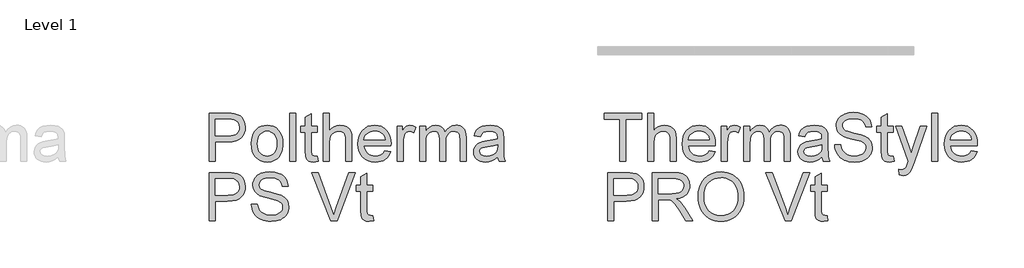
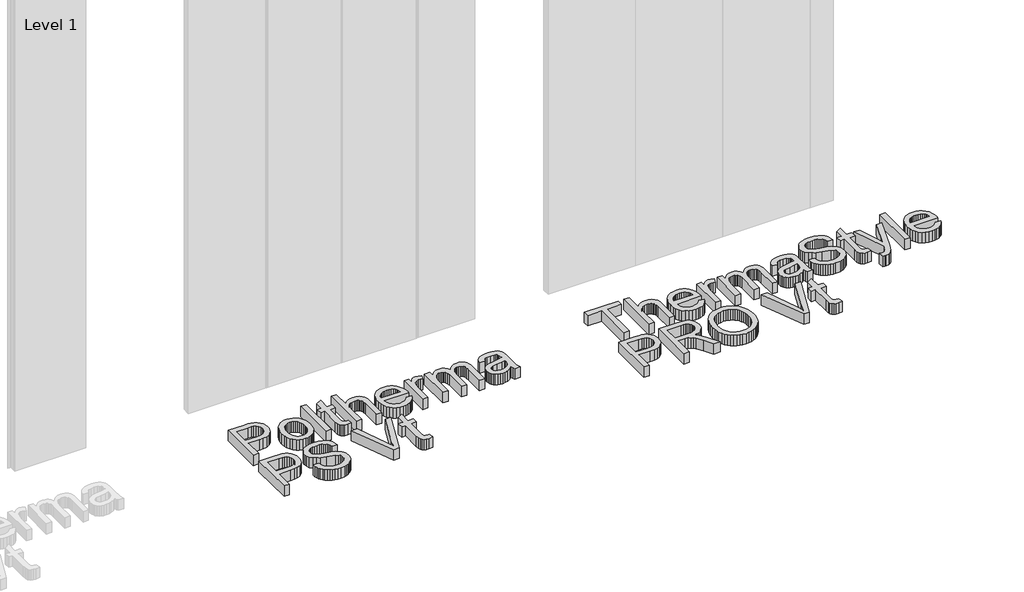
# One storey, part 20 of 27: 2 proxies.
"""IFC4 building model written with IfcOpenShell, lengths in millimetres."""

import ifcopenshell
import ifcopenshell.guid

model = None  # the IFC model being written
_history = None  # IfcOwnerHistory: only IFC2X3 demands one
_inside = {}  # id of a spatial element -> (the spatial element, [elements in it])
_under = {}  # id of a project, library or spatial element -> (it, [spatial elements below it])
_declared = {}  # id of a project -> (the project, [libraries it declares])
_typed = {}  # id of a type object -> (the type object, [elements of that type])
_made_of = {}  # id of a material, layer set ... -> (it, [elements and type objects made of it])


def new_model(schema):
    """Start an empty IFC model of exactly this schema.

    Asked for "IFC4X3", IfcOpenShell would pick the latest addendum, in which some entities
    have other attributes; the version numbers below select the first issue.
    IFC2X3 requires an IfcOwnerHistory on every rooted entity: one is made here for all.
    """
    global model, _history
    if schema == "IFC4X3":
        model = ifcopenshell.file(schema_version=(4, 3, 0, 0))
    else:
        model = ifcopenshell.file(schema=schema)
    _inside.clear()
    _under.clear()
    _declared.clear()
    _typed.clear()
    _made_of.clear()
    _history = None
    if model.schema == "IFC2X3":
        org = make("IfcOrganization", Name="unknown")
        user = make(
            "IfcPersonAndOrganization",
            ThePerson=make("IfcPerson", FamilyName="unknown"),
            TheOrganization=org,
        )
        app = make(
            "IfcApplication",
            ApplicationDeveloper=org,
            Version="unknown",
            ApplicationFullName="unknown",
            ApplicationIdentifier="unknown",
        )
        _history = make(
            "IfcOwnerHistory",
            OwningUser=user,
            OwningApplication=app,
            ChangeAction="ADDED",
            CreationDate=0,
        )
    return model


def make(cls, **values):
    """One entity of the class cls with the attributes given. An attribute that is None is left unset."""
    return model.create_entity(
        cls, **{name: value for name, value in values.items() if value is not None}
    )


def rooted(cls, **values):
    """An entity with a GlobalId (a new one), such as an element, a storey or a relation."""
    return make(cls, GlobalId=ifcopenshell.guid.new(), OwnerHistory=_history, **values)


def si_unit(unit_type, name, prefix=None):
    """IfcSIUnit, for example si_unit("LENGTHUNIT", "METRE", prefix="MILLI")."""
    return make("IfcSIUnit", UnitType=unit_type, Prefix=prefix, Name=name)


def assignment(units):
    """IfcUnitAssignment: the units of a project."""
    return None if units is None else make("IfcUnitAssignment", Units=units)


def point(xyz):
    """IfcCartesianPoint."""
    return None if xyz is None else make("IfcCartesianPoint", Coordinates=xyz)


def direction(xyz):
    """IfcDirection."""
    return None if xyz is None else make("IfcDirection", DirectionRatios=xyz)


def frame(location, z_axis=None, x_axis=None):
    """IfcAxis2Placement3D, a coordinate frame: its origin and axes. An axis left out is left unset."""
    return make(
        "IfcAxis2Placement3D",
        Location=point(location),
        Axis=direction(z_axis),
        RefDirection=direction(x_axis),
    )


def origin():
    """The frame at (0, 0, 0) with its axes left unset."""
    return frame((0.0, 0.0, 0.0))


def origin_with_axes():
    """The frame at (0, 0, 0) with the z axis (0, 0, 1) and the x axis (1, 0, 0) written out."""
    return frame((0.0, 0.0, 0.0), z_axis=(0.0, 0.0, 1.0), x_axis=(1.0, 0.0, 0.0))


def place(relative_to, where):
    """IfcLocalPlacement: puts the frame where relative to a parent placement (None: the world)."""
    return make(
        "IfcLocalPlacement", PlacementRelTo=relative_to, RelativePlacement=where
    )


def context(
    kind, dimensions, precision=None, world=None, true_north=None, identifier=None
):
    """IfcGeometricRepresentationContext, for example the 3D "Model" context."""
    return make(
        "IfcGeometricRepresentationContext",
        ContextIdentifier=identifier,
        ContextType=kind,
        CoordinateSpaceDimension=dimensions,
        Precision=precision,
        WorldCoordinateSystem=world,
        TrueNorth=true_north,
    )


def project(units=None, contexts=None):
    """IfcProject with its units and contexts."""
    return rooted(
        "IfcProject",
        Name="project",
        RepresentationContexts=contexts,
        UnitsInContext=assignment(units),
    )


def spatial(cls, under=None, at=None, **own):
    """A site, building, storey or space (cls), placed at a placement, below another one or the project."""
    s = rooted(cls, ObjectPlacement=at, **own)
    if under is not None:
        _under.setdefault(under.id(), (under, []))[1].append(s)
    return s


def polyline(points):
    """IfcPolyline through the points."""
    return make("IfcPolyline", Points=[point(p) for p in points])


def outline(outer, holes=None, kind="AREA"):
    """IfcArbitraryClosedProfileDef: a profile drawn as a closed curve; with holes, ...WithVoids."""
    if holes is None:
        return make("IfcArbitraryClosedProfileDef", ProfileType=kind, OuterCurve=outer)
    return make(
        "IfcArbitraryProfileDefWithVoids",
        ProfileType=kind,
        OuterCurve=outer,
        InnerCurves=holes,
    )


def extrude(swept, where, along, depth):
    """IfcExtrudedAreaSolid: the profile swept, set in the frame where, extruded along a direction by depth."""
    return make(
        "IfcExtrudedAreaSolid",
        SweptArea=swept,
        Position=where,
        ExtrudedDirection=direction(along),
        Depth=depth,
    )


def shape(context_of_items, identifier, shape_type, items):
    """IfcShapeRepresentation: the items that make up one representation, for example the "Body"."""
    return make(
        "IfcShapeRepresentation",
        ContextOfItems=context_of_items,
        RepresentationIdentifier=identifier,
        RepresentationType=shape_type,
        Items=items,
    )


def made_of(thing, what):
    """Note that an element or type object is made of a material, layer set ...; save() writes the relation."""
    if what is not None:
        _made_of.setdefault(what.id(), (what, []))[1].append(thing)
    return thing


def element(
    cls,
    number,
    at=None,
    inside=None,
    cuts=None,
    type_object=None,
    material=None,
    context=None,
    identifier="Body",
    shape_type=None,
    held_by="IfcProductDefinitionShape",
    body=None,
    shapes=None,
    **own,
):
    """One element of the class cls, such as IfcWall. Its Tag is "e" and its number.

    at: its placement. inside: the storey or other place that contains it. cuts: it is an
    opening in that element (IfcRelVoidsElement). A single representation is given by context,
    identifier, shape_type and body (its items); several are given by shapes. held_by: the class
    of the entity that holds the representations. save() writes the other relations.
    """
    e = rooted(cls, Tag="e%d" % number, ObjectPlacement=at, **own)
    if body is not None:
        shapes = [shape(context, identifier, shape_type, body)]
    if shapes is not None:
        e.Representation = make(held_by, Representations=shapes)
    if inside is not None:
        _inside.setdefault(inside.id(), (inside, []))[1].append(e)
    if cuts is not None:
        rooted(
            "IfcRelVoidsElement", RelatingBuildingElement=cuts, RelatedOpeningElement=e
        )
    if type_object is not None:
        _typed.setdefault(type_object.id(), (type_object, []))[1].append(e)
    return made_of(e, material)


def aggregate(whole, parts):
    """IfcRelAggregates: a whole, such as a stair, and the parts it consists of."""
    return rooted("IfcRelAggregates", RelatingObject=whole, RelatedObjects=parts)


def save(model, path):
    """Write the relations noted so far, then the file.

    IfcRelAggregates (storeys below a building ...), IfcRelContainedInSpatialStructure (elements
    in a storey), IfcRelDefinesByType, IfcRelAssociatesMaterial and IfcRelDeclares: one each for
    every whole, place, type object, material and project.
    """
    for whole, parts in _under.values():
        aggregate(whole, parts)
    for where, things in _inside.values():
        rooted(
            "IfcRelContainedInSpatialStructure",
            RelatedElements=things,
            RelatingStructure=where,
        )
    for kind, things in _typed.values():
        rooted("IfcRelDefinesByType", RelatedObjects=things, RelatingType=kind)
    for what, things in _made_of.values():
        rooted("IfcRelAssociatesMaterial", RelatedObjects=things, RelatingMaterial=what)
    for by, libraries in _declared.values():
        rooted("IfcRelDeclares", RelatingContext=by, RelatedDefinitions=libraries)
    model.write(path)


model = new_model("IFC4")

# Units and contexts
model_context = context("Model", 3, world=origin())
ifc_project = project(units=[si_unit("LENGTHUNIT", "METRE", prefix="MILLI")], contexts=[model_context])

# Site, building, storey
site = spatial("IfcSite", under=ifc_project)
building = spatial("IfcBuilding", under=site)
storey = spatial("IfcBuildingStorey", under=building, Name="Level 1", Elevation=0.0)

# Proxies
placement = place(None, origin())
element("IfcBuildingElementProxy", 1, Name="600mm Arial", ObjectType="600mm Arial", at=placement, inside=storey, context=model_context, shape_type="SweptSolid", body=[
    extrude(outline(polyline([(5651.3160797, -4357.7938606), (5651.3160797, -3767.0246299), (5870.2583874, -3767.0246299), (5921.2439643, -3768.4308799), (5958.5276182, -3772.6496299), (5997.8845893, -3783.1604472), (6030.2824259, -3800.2698222), (6056.3701663, -3824.7529953), (6076.7968489, -3857.3852068), (6089.9939643, -3895.8767933), (6094.3930028, -3937.9380914), (6091.4227504, -3974.2031154), (6082.5119932, -4007.5654953), (6067.6607312, -4038.0252308), (6046.8689643, -4065.5823222), (6018.3247937, -4088.4248703), (5980.2163201, -4104.740976), (5932.5435437, -4114.5306395), (5875.3064643, -4117.7938606), (5725.1622336, -4117.7938606), (5725.1622336, -4357.7938606), (5651.3160797, -4357.7938606)]), holes=[polyline([(5725.1622336, -4043.9477068), (5879.6333874, -4043.9477068), (5915.1502143, -4042.2529953), (5945.1141566, -4037.1688606), (5969.5252143, -4028.6953029), (5988.3833874, -4016.8323222), (6002.4549018, -4001.8954231), (6012.5059836, -3984.2001106), (6018.5366326, -3963.7463847), (6020.5468489, -3940.5342453), (6015.8052624, -3907.3611683), (6001.5805028, -3879.3803991), (5979.639397, -3858.3227068), (5951.748772, -3845.9188606), (5923.2631951, -3842.1328029), (5877.9026182, -3840.8707837), (5725.1622336, -3840.8707837), (5725.1622336, -4043.9477068)])]), origin_with_axes(), (0.0, 0.0, 1.0), 150.0),
    extrude(outline(polyline([(6168.2391566, -4140.8707837), (6172.2325461, -4084.6838847), (6184.2127143, -4036.2674183), (6204.1796614, -3995.6213847), (6232.1333874, -3962.7457837), (6260.2764163, -3941.7331635), (6291.3401182, -3926.7241491), (6325.3244932, -3917.7187404), (6362.2295413, -3914.7169376), (6402.9702263, -3918.3722861), (6439.8076663, -3929.3383318), (6472.741861, -3947.6150746), (6501.7728105, -3973.2025145), (6525.4672215, -4005.2352669), (6542.3918009, -4042.8479472), (6552.5465485, -4086.0405553), (6555.9314643, -4134.8130914), (6554.4350701, -4174.3413366), (6549.9458874, -4209.4164568), (6542.4639163, -4240.038452), (6531.9891566, -4266.2073222), (6518.6523177, -4288.810988), (6502.5841086, -4308.7373703), (6483.7845292, -4325.9864688), (6462.2535797, -4340.5582837), (6438.8296013, -4352.1373102), (6414.3509355, -4360.4080433), (6388.8175821, -4365.3704832), (6362.2295413, -4367.0246299), (6320.8939042, -4363.3828029), (6283.7139163, -4352.4573222), (6250.6895773, -4334.2481876), (6221.8208874, -4308.7553991), (6198.3788802, -4276.4116491), (6181.6345893, -4237.6496299), (6171.5880148, -4192.4693414), (6168.2391566, -4140.8707837)]), holes=[polyline([(6242.0853105, -4140.7265529), (6244.2217288, -4176.545363), (6250.6309836, -4207.5594856), (6261.3130749, -4233.7689207), (6276.2680028, -4255.1736683), (6294.4591086, -4271.8007717), (6314.8497336, -4283.6772741), (6337.4398778, -4290.8031755), (6362.2295413, -4293.178476), (6386.8930028, -4290.7896539), (6409.3930028, -4283.6231876), (6429.7295413, -4271.679077), (6447.9026182, -4254.9573222), (6462.8575461, -4233.3407356), (6473.5396374, -4206.7121299), (6479.9488922, -4175.0715049), (6482.0853105, -4138.4188606), (6479.9353706, -4103.7358678), (6473.4855509, -4073.5330433), (6462.7358513, -4047.8103871), (6447.686272, -4026.5678991), (6429.4455869, -4009.9407957), (6409.1225701, -3998.0642933), (6386.7172215, -3990.9383919), (6362.2295413, -3988.5630914), (6337.4398778, -3990.9293775), (6314.8497336, -3998.0282356), (6294.4591086, -4009.8596659), (6276.2680028, -4026.4236683), (6261.3130749, -4047.765315), (6250.6309836, -4073.9296779), (6244.2217288, -4104.9167573), (6242.0853105, -4140.7265529)])]), origin_with_axes(), (0.0, 0.0, 1.0), 150.0),
    extrude(outline(polyline([(6639.0083874, -4357.7938606), (6639.0083874, -3767.0246299), (6712.8545413, -3767.0246299), (6712.8545413, -4357.7938606), (6639.0083874, -4357.7938606)])), origin_with_axes(), (0.0, 0.0, 1.0), 150.0),
    extrude(outline(polyline([(6980.5468489, -4296.2073222), (6989.7776182, -4359.9573222), (6934.5372336, -4367.0246299), (6899.092522, -4363.959726), (6872.6622336, -4354.7650145), (6853.9843489, -4340.5943414), (6841.7968489, -4322.6015529), (6835.0901182, -4291.7001106), (6832.8545413, -4238.803476), (6832.8545413, -3997.7938606), (6777.4699259, -3997.7938606), (6777.4699259, -3923.9477068), (6832.8545413, -3923.9477068), (6832.8545413, -3818.5150145), (6906.7006951, -3775.1015529), (6906.7006951, -3923.9477068), (6980.5468489, -3923.9477068), (6980.5468489, -3997.7938606), (6906.7006951, -3997.7938606), (6906.7006951, -4236.6400145), (6910.5949259, -4274.7169376), (6923.2151182, -4288.2025145), (6933.8701663, -4291.9344856), (6948.3833874, -4293.178476), (6980.5468489, -4296.2073222)])), origin_with_axes(), (0.0, 0.0, 1.0), 150.0),
    extrude(outline(polyline([(7054.3930028, -4357.7938606), (7054.3930028, -3767.0246299), (7128.2391566, -3767.0246299), (7128.2391566, -3984.2361683), (7155.3635557, -3953.8215049), (7185.8232913, -3932.0967453), (7219.6183634, -3919.0618895), (7256.748772, -3914.7169376), (7301.3521374, -3919.4585241), (7339.6814643, -3933.6832837), (7369.8617528, -3956.2734279), (7390.0180028, -3986.1111683), (7401.3761759, -4027.1087645), (7405.1622336, -4083.178476), (7405.1622336, -4357.7938606), (7331.3160797, -4357.7938606), (7331.3160797, -4090.8227068), (7329.8467288, -4065.8888126), (7325.4386759, -4044.5967453), (7318.0919211, -4026.9465049), (7307.8064643, -4012.9380914), (7294.8256951, -4002.2740289), (7279.3930028, -3994.6568414), (7261.5083874, -3990.0865289), (7241.1718489, -3988.5630914), (7209.9639163, -3992.6736683), (7180.6670413, -4005.0053991), (7156.4002143, -4024.3683799), (7140.2824259, -4049.5727068), (7131.2499739, -4083.0703029), (7128.2391566, -4127.3130914), (7128.2391566, -4357.7938606), (7054.3930028, -4357.7938606)])), origin_with_axes(), (0.0, 0.0, 1.0), 150.0),
    extrude(outline(polyline([(7810.4506951, -4228.5630914), (7882.8545413, -4237.7938606), (7871.7532792, -4266.7932597), (7856.7668009, -4292.3491491), (7837.8951062, -4314.4615289), (7815.1381951, -4333.1303991), (7788.7304427, -4347.9591251), (7758.9062239, -4358.5510722), (7725.6655388, -4364.9062404), (7689.0083874, -4367.0246299), (7643.1880749, -4363.3692813), (7602.3617528, -4352.4032356), (7566.5294211, -4334.1264928), (7535.6910797, -4308.5390529), (7510.8924018, -4276.3530553), (7493.1790605, -4238.2806395), (7482.5510557, -4194.3218053), (7479.0083874, -4144.4765529), (7482.5871134, -4092.9410962), (7493.3232913, -4047.5174183), (7511.2169211, -4008.2055193), (7536.2680028, -3975.0053991), (7567.0252143, -3948.6291972), (7602.0372336, -3929.7890529), (7641.3040605, -3918.4849664), (7684.8256951, -3914.7169376), (7726.9455869, -3918.475952), (7765.0360316, -3929.7529953), (7799.0970292, -3948.5480674), (7829.1285797, -3974.8611683), (7853.6433033, -4007.9891731), (7871.1538201, -4047.2289568), (7881.6601302, -4092.5805193), (7885.1622336, -4144.0438606), (7884.7295413, -4163.9477068), (7552.8545413, -4163.9477068), (7557.131885, -4193.4158558), (7565.6369932, -4219.2241491), (7578.3698658, -4241.3725866), (7595.3305028, -4259.8611683), (7615.5814042, -4274.4374904), (7638.1850701, -4284.8491491), (7663.1415004, -4291.0961443), (7690.4506951, -4293.178476), (7729.7535797, -4289.3203029), (7762.8545413, -4277.7457837), (7789.7535797, -4257.7337645), (7810.4506951, -4228.5630914)]), holes=[polyline([(7552.8545413, -4090.1015529), (7811.3160797, -4090.1015529), (7801.3280989, -4051.0871299), (7792.7373538, -4035.7445818), (7781.748772, -4023.178476), (7761.6105509, -4008.0342453), (7738.6958874, -3997.2169376), (7713.0047816, -3990.7265529), (7684.5372336, -3988.5630914), (7658.5711879, -3990.2893534), (7634.7595893, -3995.4681395), (7613.1024379, -4004.0994496), (7593.5997336, -4016.1832837), (7577.2340485, -4031.1607477), (7564.9879547, -4048.4729472), (7556.8614523, -4068.1198823), (7552.8545413, -4090.1015529)])]), origin_with_axes(), (0.0, 0.0, 1.0), 150.0),
    extrude(outline(polyline([(7959.0083874, -4357.7938606), (7959.0083874, -3923.9477068), (8023.623772, -3923.9477068), (8023.623772, -3988.1303991), (8047.4939643, -3950.9188606), (8069.4891566, -3928.9957837), (8091.5564643, -3918.2866491), (8115.6430028, -3914.7169376), (8152.4218489, -3920.4140529), (8189.7776182, -3937.5053991), (8165.1141566, -4003.7073222), (8139.1526182, -3992.3491491), (8113.1910797, -3988.5630914), (8091.1418009, -3992.2049183), (8071.436272, -4003.1303991), (8055.5168009, -4020.5102068), (8044.8256951, -4043.5150145), (8035.8473297, -4084.7650145), (8032.8545413, -4129.7650145), (8032.8545413, -4357.7938606), (7959.0083874, -4357.7938606)])), origin_with_axes(), (0.0, 0.0, 1.0), 150.0),
    extrude(outline(polyline([(8235.9314643, -4357.7938606), (8235.9314643, -3923.9477068), (8309.7776182, -3923.9477068), (8309.7776182, -3995.3419376), (8331.9891566, -3962.5474664), (8360.5468489, -3936.8563606), (8394.4771374, -3920.2517933), (8432.8064643, -3914.7169376), (8473.8761759, -3920.3599664), (8491.3551422, -3927.4137525), (8506.7968489, -3937.2890529), (8531.3881951, -3964.3864087), (8547.4699259, -4000.5342453), (8574.3869932, -3962.9891731), (8605.0901182, -3936.1712645), (8639.5793009, -3920.0805193), (8677.8545413, -3914.7169376), (8707.4173417, -3916.9480073), (8733.3653586, -3923.6412164), (8755.6985917, -3934.796565), (8774.4170413, -3950.4140529), (8789.2142167, -3970.6739688), (8799.7836278, -3995.756601), (8806.1252744, -4025.6619496), (8808.2391566, -4060.3900145), (8808.2391566, -4357.7938606), (8734.3930028, -4357.7938606), (8734.3930028, -4092.1207837), (8732.6802624, -4055.287851), (8727.5420413, -4030.4621299), (8717.9146374, -4013.4609279), (8702.7343489, -4000.1015529), (8683.2091086, -3991.4477068), (8660.5468489, -3988.5630914), (8639.6198658, -3990.4110481), (8620.5408393, -3995.9549183), (8603.3097696, -4005.194702), (8587.9266566, -4018.1303991), (8575.2749138, -4035.1406154), (8566.2379547, -4056.6039568), (8560.8157792, -4082.5204231), (8559.0083874, -4112.8900145), (8559.0083874, -4357.7938606), (8485.1622336, -4357.7938606), (8485.1622336, -4083.8996299), (8480.889397, -4042.1448222), (8468.0708874, -4012.3611683), (8458.1595292, -4001.9495097), (8445.5168009, -3994.5126106), (8430.1427023, -3990.0504712), (8412.0372336, -3988.5630914), (8383.5877143, -3992.5294376), (8357.373772, -4004.428476), (8335.7391566, -4023.9717453), (8321.0276182, -4050.8707837), (8312.5901182, -4088.1904953), (8309.7776182, -4138.9957837), (8309.7776182, -4357.7938606), (8235.9314643, -4357.7938606)])), origin_with_axes(), (0.0, 0.0, 1.0), 150.0),
    extrude(outline(polyline([(9195.9314643, -4302.4092453), (9160.6490124, -4332.6616491), (9124.3208874, -4352.4573222), (9086.1177624, -4363.3828029), (9045.2103105, -4367.0246299), (9012.3302023, -4364.8341251), (8983.4975701, -4358.2626106), (8958.7124138, -4347.3100866), (8937.9747336, -4331.9765529), (8921.600034, -4313.2355674), (8909.9038201, -4292.0606876), (8902.8860917, -4268.4519135), (8900.5468489, -4242.4092453), (8904.0805028, -4211.7962645), (8914.6814643, -4183.9957837), (8931.0336278, -4160.1977068), (8951.8208874, -4141.5919376), (8976.2499739, -4127.5294376), (9003.5276182, -4117.3611683), (9067.4218489, -4106.2553991), (9142.9266566, -4094.5727068), (9195.498772, -4080.8707837), (9195.9314643, -4064.428476), (9190.8473297, -4031.4717453), (9184.4921614, -4019.2662164), (9175.5949259, -4009.9092453), (9160.2163201, -4000.5703029), (9141.4843489, -3993.8996299), (9093.9603105, -3988.5630914), (9049.9699259, -3992.1147741), (9019.248772, -4002.7698222), (8998.2992528, -4022.475351), (8983.623772, -4053.178476), (8909.7776182, -4043.9477068), (8922.5961278, -4003.5630914), (8941.7247336, -3971.8323222), (8968.9482913, -3947.5654953), (9006.0516566, -3929.5727068), (9051.4302624, -3918.4308799), (9103.4795413, -3914.7169376), (9153.4014163, -3917.9981876), (9192.9747336, -3927.8419376), (9222.8124739, -3942.6436203), (9243.5276182, -3960.7986683), (9257.2655989, -3983.2445818), (9266.1718489, -4010.9188606), (9269.7776182, -4075.5342453), (9269.7776182, -4167.4092453), (9273.5276182, -4295.7025145), (9279.0805028, -4327.4152549), (9288.2391566, -4357.7938606), (9214.3930028, -4357.7938606), (9202.5660797, -4332.1207837), (9195.9314643, -4302.4092453)]), holes=[polyline([(9195.9314643, -4154.7169376), (9146.3160797, -4167.0126106), (9076.7968489, -4177.3611683), (9013.2631951, -4189.3323222), (8996.7307432, -4197.5174183), (8984.4891566, -4208.803476), (8976.9170413, -4222.3251106), (8974.3930028, -4237.2169376), (8979.8918009, -4259.1760722), (8996.3881951, -4277.1688606), (9023.5216086, -4289.1760722), (9060.9314643, -4293.178476), (9100.5949259, -4288.7614087), (9135.6430028, -4275.5102068), (9164.0564643, -4255.9849664), (9183.8160797, -4232.7457837), (9192.5780989, -4208.803476), (9195.498772, -4175.6303991), (9195.9314643, -4154.7169376)])]), origin_with_axes(), (0.0, 0.0, 1.0), 150.0),
    extrude(outline(polyline([(5651.3160797, -5087.0246299), (5651.3160797, -4496.2553991), (5870.2583874, -4496.2553991), (5921.2439643, -4497.6616491), (5958.5276182, -4501.8803991), (5997.8845893, -4512.3912164), (6030.2824259, -4529.5005914), (6056.3701663, -4553.9837645), (6076.7968489, -4586.615976), (6089.9939643, -4625.1075626), (6094.3930028, -4667.1688606), (6091.4227504, -4703.4338847), (6082.5119932, -4736.7962645), (6067.6607312, -4767.2560001), (6046.8689643, -4794.8130914), (6018.3247937, -4817.6556395), (5980.2163201, -4833.9717453), (5932.5435437, -4843.7614087), (5875.3064643, -4847.0246299), (5725.1622336, -4847.0246299), (5725.1622336, -5087.0246299), (5651.3160797, -5087.0246299)]), holes=[polyline([(5725.1622336, -4773.178476), (5879.6333874, -4773.178476), (5915.1502143, -4771.4837645), (5945.1141566, -4766.3996299), (5969.5252143, -4757.9260722), (5988.3833874, -4746.0630914), (6002.4549018, -4731.1261924), (6012.5059836, -4713.4308799), (6018.5366326, -4692.9771539), (6020.5468489, -4669.7650145), (6015.8052624, -4636.5919376), (6001.5805028, -4608.6111683), (5979.639397, -4587.553476), (5951.748772, -4575.1496299), (5923.2631951, -4571.3635722), (5877.9026182, -4570.1015529), (5725.1622336, -4570.1015529), (5725.1622336, -4773.178476)])]), origin_with_axes(), (0.0, 0.0, 1.0), 150.0),
    extrude(outline(polyline([(6168.2391566, -4883.9477068), (6242.0853105, -4883.9477068), (6250.5588682, -4924.9272741), (6265.8833874, -4957.865976), (6289.7896374, -4984.0078029), (6324.0083874, -5004.5967453), (6365.8353105, -5017.9561203), (6412.5660797, -5022.4092453), (6453.7079066, -5019.037851), (6489.7295413, -5008.9236683), (6518.9182432, -4992.9140529), (6539.561272, -4971.8563606), (6551.8389163, -4947.6796779), (6555.9314643, -4922.3130914), (6552.8665605, -4897.5955433), (6543.6718489, -4876.2313606), (6524.9939643, -4858.0041972), (6493.4795413, -4842.6977068), (6385.9555028, -4814.5005914), (6315.3725701, -4795.8407356), (6270.2103105, -4778.0823222), (6233.4494932, -4753.2385722), (6207.3978105, -4723.1303991), (6191.8749739, -4688.4068414), (6186.7006951, -4649.7169376), (6188.3007552, -4627.7262525), (6193.1009355, -4606.4657356), (6201.101236, -4585.9353871), (6212.3016566, -4566.1352068), (6226.5759956, -4547.8719856), (6243.7980509, -4531.9525145), (6263.9678225, -4518.3767933), (6287.0853105, -4507.1448222), (6339.0444451, -4492.0546779), (6396.5564643, -4487.0246299), (6458.8641566, -4492.2890529), (6513.3833874, -4508.0823222), (6537.2355509, -4519.8461443), (6558.1670413, -4534.0799183), (6576.1778586, -4550.7836443), (6591.2680028, -4569.9573222), (6603.3202864, -4591.0420578), (6612.217522, -4613.4789568), (6617.9597095, -4637.2680193), (6620.5468489, -4662.4092453), (6546.7006951, -4662.4092453), (6541.7607913, -4638.8455433), (6533.1430028, -4618.3467453), (6520.8473297, -4600.912851), (6504.873772, -4586.5438606), (6484.9248538, -4575.3118895), (6460.7030989, -4567.2890529), (6432.2085076, -4562.475351), (6399.4410797, -4560.8707837), (6365.6279788, -4562.4573222), (6336.7367528, -4567.2169376), (6312.7674018, -4575.1496299), (6293.7199259, -4586.2553991), (6279.2067047, -4599.6057597), (6268.8401182, -4614.272226), (6262.6201663, -4630.2547981), (6260.5468489, -4647.553476), (6266.4242528, -4675.9308799), (6284.0564643, -4698.7553991), (6300.2463682, -4708.9056395), (6325.7391566, -4719.1640529), (6404.6333874, -4740.0053991), (6486.0516566, -4759.8010722), (6535.3064643, -4777.0727068), (6577.4038201, -4803.8635722), (6593.679361, -4819.6117693), (6606.7728105, -4836.928476), (6616.8374138, -4855.7235481), (6624.0264163, -4875.9068414), (6629.7776182, -4920.4380914), (6628.1234715, -4943.5375505), (6623.1610316, -4965.9609279), (6614.8902985, -4987.7082236), (6603.311272, -5008.7794376), (6588.6267768, -5028.3587645), (6571.0396374, -5045.6303991), (6550.5498538, -5060.5943414), (6527.1574259, -5073.2505914), (6501.5429427, -5083.3151948), (6474.3869932, -5090.5041972), (6415.4506951, -5096.2553991), (6377.6757552, -5094.7049183), (6343.1009355, -5090.053476), (6311.726236, -5082.3010722), (6283.5516566, -5071.4477068), (6258.4059235, -5057.475351), (6236.1177624, -5040.365976), (6216.6871735, -5020.1195818), (6200.1141566, -4996.7361683), (6186.7637961, -4970.9729472), (6177.0011759, -4943.5871299), (6170.8262961, -4914.5787164), (6168.2391566, -4883.9477068)])), origin_with_axes(), (0.0, 0.0, 1.0), 150.0),
    extrude(outline(polyline([(7145.8353105, -5087.0246299), (6910.7391566, -4496.2553991), (6989.7776182, -4496.2553991), (7147.1333874, -4921.8803991), (7179.0083874, -5017.7938606), (7210.4506951, -4921.8803991), (7368.2391566, -4496.2553991), (7447.2776182, -4496.2553991), (7222.1333874, -5087.0246299), (7145.8353105, -5087.0246299)])), origin_with_axes(), (0.0, 0.0, 1.0), 150.0),
    extrude(outline(polyline([(7663.623772, -5025.4380914), (7672.8545413, -5089.1880914), (7617.6141566, -5096.2553991), (7582.1694451, -5093.1904953), (7555.7391566, -5083.9957837), (7537.061272, -5069.8251106), (7524.873772, -5051.8323222), (7518.1670413, -5020.9308799), (7515.9314643, -4968.0342453), (7515.9314643, -4727.0246299), (7460.5468489, -4727.0246299), (7460.5468489, -4653.178476), (7515.9314643, -4653.178476), (7515.9314643, -4547.7457837), (7589.7776182, -4504.3323222), (7589.7776182, -4653.178476), (7663.623772, -4653.178476), (7663.623772, -4727.0246299), (7589.7776182, -4727.0246299), (7589.7776182, -4965.8707837), (7593.6718489, -5003.9477068), (7606.2920413, -5017.4332837), (7616.9470893, -5021.1652549), (7631.4603105, -5022.4092453), (7663.623772, -5025.4380914)])), origin_with_axes(), (0.0, 0.0, 1.0), 150.0),
])
element("IfcBuildingElementProxy", 2, Name="600mm Arial", ObjectType="600mm Arial", at=placement, inside=storey, context=model_context, shape_type="SweptSolid", body=[
    extrude(outline(polyline([(10699.0083874, -4357.7938606), (10699.0083874, -3840.8707837), (10505.1622336, -3840.8707837), (10505.1622336, -3767.0246299), (10966.7006951, -3767.0246299), (10966.7006951, -3840.8707837), (10772.8545413, -3840.8707837), (10772.8545413, -4357.7938606), (10699.0083874, -4357.7938606)])), origin_with_axes(), (0.0, 0.0, 1.0), 150.0),
    extrude(outline(polyline([(11040.5468489, -4357.7938606), (11040.5468489, -3767.0246299), (11114.3930028, -3767.0246299), (11114.3930028, -3984.2361683), (11141.5174018, -3953.8215049), (11171.9771374, -3932.0967453), (11205.7722095, -3919.0618895), (11242.9026182, -3914.7169376), (11287.5059836, -3919.4585241), (11325.8353105, -3933.6832837), (11356.0155989, -3956.2734279), (11376.1718489, -3986.1111683), (11387.530022, -4027.1087645), (11391.3160797, -4083.178476), (11391.3160797, -4357.7938606), (11317.4699259, -4357.7938606), (11317.4699259, -4090.8227068), (11316.0005749, -4065.8888126), (11311.592522, -4044.5967453), (11304.2457672, -4026.9465049), (11293.9603105, -4012.9380914), (11280.9795413, -4002.2740289), (11265.5468489, -3994.6568414), (11247.6622336, -3990.0865289), (11227.3256951, -3988.5630914), (11196.1177624, -3992.6736683), (11166.8208874, -4005.0053991), (11142.5540605, -4024.3683799), (11126.436272, -4049.5727068), (11117.4038201, -4083.0703029), (11114.3930028, -4127.3130914), (11114.3930028, -4357.7938606), (11040.5468489, -4357.7938606)])), origin_with_axes(), (0.0, 0.0, 1.0), 150.0),
    extrude(outline(polyline([(11796.6045413, -4228.5630914), (11869.0083874, -4237.7938606), (11857.9071254, -4266.7932597), (11842.920647, -4292.3491491), (11824.0489523, -4314.4615289), (11801.2920413, -4333.1303991), (11774.8842888, -4347.9591251), (11745.0600701, -4358.5510722), (11711.819385, -4364.9062404), (11675.1622336, -4367.0246299), (11629.3419211, -4363.3692813), (11588.5155989, -4352.4032356), (11552.6832672, -4334.1264928), (11521.8449259, -4308.5390529), (11497.046248, -4276.3530553), (11479.3329066, -4238.2806395), (11468.7049018, -4194.3218053), (11465.1622336, -4144.4765529), (11468.7409595, -4092.9410962), (11479.4771374, -4047.5174183), (11497.3707672, -4008.2055193), (11522.4218489, -3975.0053991), (11553.1790605, -3948.6291972), (11588.1910797, -3929.7890529), (11627.4579066, -3918.4849664), (11670.9795413, -3914.7169376), (11713.0994331, -3918.475952), (11751.1898778, -3929.7529953), (11785.2508754, -3948.5480674), (11815.2824259, -3974.8611683), (11839.7971494, -4007.9891731), (11857.3076663, -4047.2289568), (11867.8139763, -4092.5805193), (11871.3160797, -4144.0438606), (11870.8833874, -4163.9477068), (11539.0083874, -4163.9477068), (11543.2857312, -4193.4158558), (11551.7908393, -4219.2241491), (11564.5237119, -4241.3725866), (11581.4843489, -4259.8611683), (11601.7352504, -4274.4374904), (11624.3389163, -4284.8491491), (11649.2953465, -4291.0961443), (11676.6045413, -4293.178476), (11715.9074259, -4289.3203029), (11749.0083874, -4277.7457837), (11775.9074259, -4257.7337645), (11796.6045413, -4228.5630914)]), holes=[polyline([(11539.0083874, -4090.1015529), (11797.4699259, -4090.1015529), (11787.4819451, -4051.0871299), (11778.8911999, -4035.7445818), (11767.9026182, -4023.178476), (11747.764397, -4008.0342453), (11724.8497336, -3997.2169376), (11699.1586278, -3990.7265529), (11670.6910797, -3988.5630914), (11644.725034, -3990.2893534), (11620.9134355, -3995.4681395), (11599.256284, -4004.0994496), (11579.7535797, -4016.1832837), (11563.3878946, -4031.1607477), (11551.1418009, -4048.4729472), (11543.0152985, -4068.1198823), (11539.0083874, -4090.1015529)])]), origin_with_axes(), (0.0, 0.0, 1.0), 150.0),
    extrude(outline(polyline([(11945.1622336, -4357.7938606), (11945.1622336, -3923.9477068), (12009.7776182, -3923.9477068), (12009.7776182, -3988.1303991), (12033.6478105, -3950.9188606), (12055.6430028, -3928.9957837), (12077.7103105, -3918.2866491), (12101.7968489, -3914.7169376), (12138.5756951, -3920.4140529), (12175.9314643, -3937.5053991), (12151.2680028, -4003.7073222), (12125.3064643, -3992.3491491), (12099.3449259, -3988.5630914), (12077.295647, -3992.2049183), (12057.5901182, -4003.1303991), (12041.670647, -4020.5102068), (12030.9795413, -4043.5150145), (12022.0011759, -4084.7650145), (12019.0083874, -4129.7650145), (12019.0083874, -4357.7938606), (11945.1622336, -4357.7938606)])), origin_with_axes(), (0.0, 0.0, 1.0), 150.0),
    extrude(outline(polyline([(12222.0853105, -4357.7938606), (12222.0853105, -3923.9477068), (12295.9314643, -3923.9477068), (12295.9314643, -3995.3419376), (12318.1430028, -3962.5474664), (12346.7006951, -3936.8563606), (12380.6309836, -3920.2517933), (12418.9603105, -3914.7169376), (12460.030022, -3920.3599664), (12477.5089884, -3927.4137525), (12492.9506951, -3937.2890529), (12517.5420413, -3964.3864087), (12533.623772, -4000.5342453), (12560.5408393, -3962.9891731), (12591.2439643, -3936.1712645), (12625.733147, -3920.0805193), (12664.0083874, -3914.7169376), (12693.5711879, -3916.9480073), (12719.5192047, -3923.6412164), (12741.8524379, -3934.796565), (12760.5708874, -3950.4140529), (12775.3680629, -3970.6739688), (12785.9374739, -3995.756601), (12792.2791206, -4025.6619496), (12794.3930028, -4060.3900145), (12794.3930028, -4357.7938606), (12720.5468489, -4357.7938606), (12720.5468489, -4092.1207837), (12718.8341086, -4055.287851), (12713.6958874, -4030.4621299), (12704.0684836, -4013.4609279), (12688.8881951, -4000.1015529), (12669.3629547, -3991.4477068), (12646.7006951, -3988.5630914), (12625.7737119, -3990.4110481), (12606.6946855, -3995.9549183), (12589.4636158, -4005.194702), (12574.0805028, -4018.1303991), (12561.42876, -4035.1406154), (12552.3918009, -4056.6039568), (12546.9696254, -4082.5204231), (12545.1622336, -4112.8900145), (12545.1622336, -4357.7938606), (12471.3160797, -4357.7938606), (12471.3160797, -4083.8996299), (12467.0432432, -4042.1448222), (12454.2247336, -4012.3611683), (12444.3133754, -4001.9495097), (12431.670647, -3994.5126106), (12416.2965485, -3990.0504712), (12398.1910797, -3988.5630914), (12369.7415605, -3992.5294376), (12343.5276182, -4004.428476), (12321.8930028, -4023.9717453), (12307.1814643, -4050.8707837), (12298.7439643, -4088.1904953), (12295.9314643, -4138.9957837), (12295.9314643, -4357.7938606), (12222.0853105, -4357.7938606)])), origin_with_axes(), (0.0, 0.0, 1.0), 150.0),
    extrude(outline(polyline([(13182.0853105, -4302.4092453), (13146.8028586, -4332.6616491), (13110.4747336, -4352.4573222), (13072.2716086, -4363.3828029), (13031.3641566, -4367.0246299), (12998.4840485, -4364.8341251), (12969.6514163, -4358.2626106), (12944.86626, -4347.3100866), (12924.1285797, -4331.9765529), (12907.7538802, -4313.2355674), (12896.0576663, -4292.0606876), (12889.0399379, -4268.4519135), (12886.7006951, -4242.4092453), (12890.2343489, -4211.7962645), (12900.8353105, -4183.9957837), (12917.1874739, -4160.1977068), (12937.9747336, -4141.5919376), (12962.4038201, -4127.5294376), (12989.6814643, -4117.3611683), (13053.5756951, -4106.2553991), (13129.0805028, -4094.5727068), (13181.6526182, -4080.8707837), (13182.0853105, -4064.428476), (13177.0011759, -4031.4717453), (13170.6460076, -4019.2662164), (13161.748772, -4009.9092453), (13146.3701663, -4000.5703029), (13127.6381951, -3993.8996299), (13080.1141566, -3988.5630914), (13036.123772, -3992.1147741), (13005.4026182, -4002.7698222), (12984.4530989, -4022.475351), (12969.7776182, -4053.178476), (12895.9314643, -4043.9477068), (12908.7499739, -4003.5630914), (12927.8785797, -3971.8323222), (12955.1021374, -3947.5654953), (12992.2055028, -3929.5727068), (13037.5841086, -3918.4308799), (13089.6333874, -3914.7169376), (13139.5552624, -3917.9981876), (13179.1285797, -3927.8419376), (13208.9663201, -3942.6436203), (13229.6814643, -3960.7986683), (13243.4194451, -3983.2445818), (13252.3256951, -4010.9188606), (13255.9314643, -4075.5342453), (13255.9314643, -4167.4092453), (13259.6814643, -4295.7025145), (13265.2343489, -4327.4152549), (13274.3930028, -4357.7938606), (13200.5468489, -4357.7938606), (13188.7199259, -4332.1207837), (13182.0853105, -4302.4092453)]), holes=[polyline([(13182.0853105, -4154.7169376), (13132.4699259, -4167.0126106), (13062.9506951, -4177.3611683), (12999.4170413, -4189.3323222), (12982.8845893, -4197.5174183), (12970.6430028, -4208.803476), (12963.0708874, -4222.3251106), (12960.5468489, -4237.2169376), (12966.045647, -4259.1760722), (12982.5420413, -4277.1688606), (13009.6754547, -4289.1760722), (13047.0853105, -4293.178476), (13086.748772, -4288.7614087), (13121.7968489, -4275.5102068), (13150.2103105, -4255.9849664), (13169.9699259, -4232.7457837), (13178.7319451, -4208.803476), (13181.6526182, -4175.6303991), (13182.0853105, -4154.7169376)])]), origin_with_axes(), (0.0, 0.0, 1.0), 150.0),
    extrude(outline(polyline([(13339.0083874, -4154.7169376), (13412.8545413, -4154.7169376), (13421.3280989, -4195.6965049), (13436.6526182, -4228.6352068), (13460.5588682, -4254.7770337), (13494.7776182, -4275.365976), (13536.6045413, -4288.725351), (13583.3353105, -4293.178476), (13624.4771374, -4289.8070818), (13660.498772, -4279.6928991), (13689.6874739, -4263.6832837), (13710.3305028, -4242.6255914), (13722.608147, -4218.4489087), (13726.7006951, -4193.0823222), (13723.6357913, -4168.3647741), (13714.4410797, -4147.0005914), (13695.7631951, -4128.7734279), (13664.248772, -4113.4669376), (13556.7247336, -4085.2698222), (13486.1418009, -4066.6099664), (13440.9795413, -4048.8515529), (13404.2187239, -4024.0078029), (13378.1670413, -3993.8996299), (13362.6442047, -3959.1760722), (13357.4699259, -3920.4861683), (13359.069986, -3898.4954832), (13363.8701663, -3877.2349664), (13371.8704667, -3856.7046178), (13383.0708874, -3836.9044376), (13397.3452263, -3818.6412164), (13414.5672816, -3802.7217453), (13434.7370533, -3789.1460241), (13457.8545413, -3777.9140529), (13509.8136759, -3762.8239087), (13567.3256951, -3757.7938606), (13629.6333874, -3763.0582837), (13684.1526182, -3778.8515529), (13708.0047816, -3790.6153751), (13728.936272, -3804.8491491), (13746.9470893, -3821.5528751), (13762.0372336, -3840.7265529), (13774.0895172, -3861.8112885), (13782.9867528, -3884.2481876), (13788.7289403, -3908.0372501), (13791.3160797, -3933.178476), (13717.4699259, -3933.178476), (13712.530022, -3909.6147741), (13703.9122336, -3889.115976), (13691.6165605, -3871.6820818), (13675.6430028, -3857.3130914), (13655.6940845, -3846.0811203), (13631.4723297, -3838.0582837), (13602.9777384, -3833.2445818), (13570.2103105, -3831.6400145), (13536.3972095, -3833.2265529), (13507.5059836, -3837.9861683), (13483.5366326, -3845.9188606), (13464.4891566, -3857.0246299), (13449.9759355, -3870.3749904), (13439.6093489, -3885.0414568), (13433.389397, -3901.0240289), (13431.3160797, -3918.3227068), (13437.1934836, -3946.7001106), (13454.8256951, -3969.5246299), (13471.0155989, -3979.6748703), (13496.5083874, -3989.9332837), (13575.4026182, -4010.7746299), (13656.8208874, -4030.5703029), (13706.0756951, -4047.8419376), (13748.1730509, -4074.6328029), (13764.4485917, -4090.3810001), (13777.5420413, -4107.6977068), (13787.6066446, -4126.4927789), (13794.795647, -4146.6760722), (13800.5468489, -4191.2073222), (13798.8927023, -4214.3067813), (13793.9302624, -4236.7301587), (13785.6595292, -4258.4774544), (13774.0805028, -4279.5486683), (13759.3960076, -4299.1279953), (13741.8088682, -4316.3996299), (13721.3190845, -4331.3635722), (13697.9266566, -4344.0198222), (13672.3121735, -4354.0844255), (13645.1562239, -4361.2734279), (13586.2199259, -4367.0246299), (13548.444986, -4365.4741491), (13513.8701663, -4360.8227068), (13482.4954667, -4353.0703029), (13454.3208874, -4342.2169376), (13429.1751542, -4328.2445818), (13406.8869932, -4311.1352068), (13387.4564042, -4290.8888126), (13370.8833874, -4267.5053991), (13357.5330268, -4241.7421779), (13347.7704066, -4214.3563606), (13341.5955268, -4185.3479472), (13339.0083874, -4154.7169376)])), origin_with_axes(), (0.0, 0.0, 1.0), 150.0),
    extrude(outline(polyline([(14059.0083874, -4296.2073222), (14068.2391566, -4359.9573222), (14012.998772, -4367.0246299), (13977.5540605, -4363.959726), (13951.123772, -4354.7650145), (13932.4458874, -4340.5943414), (13920.2583874, -4322.6015529), (13913.5516566, -4291.7001106), (13911.3160797, -4238.803476), (13911.3160797, -3997.7938606), (13855.9314643, -3997.7938606), (13855.9314643, -3923.9477068), (13911.3160797, -3923.9477068), (13911.3160797, -3818.5150145), (13985.1622336, -3775.1015529), (13985.1622336, -3923.9477068), (14059.0083874, -3923.9477068), (14059.0083874, -3997.7938606), (13985.1622336, -3997.7938606), (13985.1622336, -4236.6400145), (13989.0564643, -4274.7169376), (14001.6766566, -4288.2025145), (14012.3317047, -4291.9344856), (14026.8449259, -4293.178476), (14059.0083874, -4296.2073222)])), origin_with_axes(), (0.0, 0.0, 1.0), 150.0),
    extrude(outline(polyline([(14132.8545413, -4523.9477068), (14123.623772, -4452.8419376), (14161.123772, -4459.3323222), (14180.8473297, -4457.2950626), (14196.1718489, -4451.1832837), (14208.1069451, -4441.4296779), (14217.6622336, -4428.4669376), (14237.8545413, -4374.0919376), (14243.623772, -4356.2073222), (14086.7006951, -3923.9477068), (14164.5853105, -3923.9477068), (14247.8064643, -4164.8130914), (14276.7968489, -4261.1592453), (14305.7872336, -4176.0630914), (14391.3160797, -3923.9477068), (14468.623772, -3923.9477068), (14317.6141566, -4368.178476), (14278.3833874, -4464.5246299), (14258.2992528, -4495.2818414), (14235.5468489, -4516.5919376), (14209.1165605, -4529.0318414), (14177.998772, -4533.178476), (14156.6165605, -4530.8707837), (14132.8545413, -4523.9477068)])), origin_with_axes(), (0.0, 0.0, 1.0), 150.0),
    extrude(outline(polyline([(14529.7776182, -4357.7938606), (14529.7776182, -3767.0246299), (14603.623772, -3767.0246299), (14603.623772, -4357.7938606), (14529.7776182, -4357.7938606)])), origin_with_axes(), (0.0, 0.0, 1.0), 150.0),
    extrude(outline(polyline([(15018.1430028, -4228.5630914), (15090.5468489, -4237.7938606), (15079.4455869, -4266.7932597), (15064.4591086, -4292.3491491), (15045.5874138, -4314.4615289), (15022.8305028, -4333.1303991), (14996.4227504, -4347.9591251), (14966.5985316, -4358.5510722), (14933.3578465, -4364.9062404), (14896.7006951, -4367.0246299), (14850.8803826, -4363.3692813), (14810.0540605, -4352.4032356), (14774.2217288, -4334.1264928), (14743.3833874, -4308.5390529), (14718.5847095, -4276.3530553), (14700.8713682, -4238.2806395), (14690.2433634, -4194.3218053), (14686.7006951, -4144.4765529), (14690.2794211, -4092.9410962), (14701.0155989, -4047.5174183), (14718.9092288, -4008.2055193), (14743.9603105, -3975.0053991), (14774.717522, -3948.6291972), (14809.7295413, -3929.7890529), (14848.9963682, -3918.4849664), (14892.5180028, -3914.7169376), (14934.6378946, -3918.475952), (14972.7283393, -3929.7529953), (15006.7893369, -3948.5480674), (15036.8208874, -3974.8611683), (15061.335611, -4007.9891731), (15078.8461278, -4047.2289568), (15089.3524379, -4092.5805193), (15092.8545413, -4144.0438606), (15092.4218489, -4163.9477068), (14760.5468489, -4163.9477068), (14764.8241927, -4193.4158558), (14773.3293009, -4219.2241491), (14786.0621735, -4241.3725866), (14803.0228105, -4259.8611683), (14823.2737119, -4274.4374904), (14845.8773778, -4284.8491491), (14870.8338081, -4291.0961443), (14898.1430028, -4293.178476), (14937.4458874, -4289.3203029), (14970.5468489, -4277.7457837), (14997.4458874, -4257.7337645), (15018.1430028, -4228.5630914)]), holes=[polyline([(14760.5468489, -4090.1015529), (15019.0083874, -4090.1015529), (15009.0204066, -4051.0871299), (15000.4296614, -4035.7445818), (14989.4410797, -4023.178476), (14969.3028586, -4008.0342453), (14946.3881951, -3997.2169376), (14920.6970893, -3990.7265529), (14892.2295413, -3988.5630914), (14866.2634956, -3990.2893534), (14842.451897, -3995.4681395), (14820.7947456, -4004.0994496), (14801.2920413, -4016.1832837), (14784.9263562, -4031.1607477), (14772.6802624, -4048.4729472), (14764.55376, -4068.1198823), (14760.5468489, -4090.1015529)])]), origin_with_axes(), (0.0, 0.0, 1.0), 150.0),
    extrude(outline(polyline([(10551.3160797, -5087.0246299), (10551.3160797, -4496.2553991), (10770.2583874, -4496.2553991), (10821.2439643, -4497.6616491), (10858.5276182, -4501.8803991), (10897.8845893, -4512.3912164), (10930.2824259, -4529.5005914), (10956.3701663, -4553.9837645), (10976.7968489, -4586.615976), (10989.9939643, -4625.1075626), (10994.3930028, -4667.1688606), (10991.4227504, -4703.4338847), (10982.5119932, -4736.7962645), (10967.6607312, -4767.2560001), (10946.8689643, -4794.8130914), (10918.3247937, -4817.6556395), (10880.2163201, -4833.9717453), (10832.5435437, -4843.7614087), (10775.3064643, -4847.0246299), (10625.1622336, -4847.0246299), (10625.1622336, -5087.0246299), (10551.3160797, -5087.0246299)]), holes=[polyline([(10625.1622336, -4773.178476), (10779.6333874, -4773.178476), (10815.1502143, -4771.4837645), (10845.1141566, -4766.3996299), (10869.5252143, -4757.9260722), (10888.3833874, -4746.0630914), (10902.4549018, -4731.1261924), (10912.5059836, -4713.4308799), (10918.5366326, -4692.9771539), (10920.5468489, -4669.7650145), (10915.8052624, -4636.5919376), (10901.5805028, -4608.6111683), (10879.639397, -4587.553476), (10851.748772, -4575.1496299), (10823.2631951, -4571.3635722), (10777.9026182, -4570.1015529), (10625.1622336, -4570.1015529), (10625.1622336, -4773.178476)])]), origin_with_axes(), (0.0, 0.0, 1.0), 150.0),
    extrude(outline(polyline([(11095.9314643, -5087.0246299), (11095.9314643, -4496.2553991), (11350.498772, -4496.2553991), (11418.9182432, -4500.2397741), (11468.6958874, -4512.1928991), (11487.905623, -4521.694101), (11505.0780989, -4534.2602068), (11520.2133153, -4549.8912164), (11533.311272, -4568.5871299), (11543.8806831, -4589.342839), (11551.4302624, -4611.1532356), (11557.4699259, -4657.9380914), (11554.9684235, -4688.2806395), (11547.4639163, -4716.1352068), (11534.9564042, -4741.5017933), (11517.4458874, -4764.3803991), (11494.7070052, -4784.0408558), (11466.514397, -4799.7529953), (11432.8680629, -4811.5168174), (11393.7680028, -4819.3323222), (11418.1069451, -4835.2337645), (11435.7391566, -4850.9188606), (11495.5949259, -4926.928476), (11594.1045413, -5087.0246299), (11508.2872336, -5087.0246299), (11431.4122336, -4964.5727068), (11375.8833874, -4883.5150145), (11355.2403586, -4859.8791972), (11336.8689643, -4845.2217453), (11301.748772, -4831.1592453), (11258.9122336, -4828.5630914), (11169.7776182, -4828.5630914), (11169.7776182, -5087.0246299), (11095.9314643, -5087.0246299)]), holes=[polyline([(11169.7776182, -4754.7169376), (11335.0660797, -4754.7169376), (11382.5360316, -4752.1027549), (11419.3689643, -4744.2602068), (11447.0973297, -4730.6664568), (11467.2535797, -4710.7986683), (11479.5312239, -4686.7662164), (11483.623772, -4660.678476), (11481.6721494, -4641.7932597), (11475.8172816, -4624.6568414), (11466.0591687, -4609.2692212), (11452.3978105, -4595.6303991), (11434.5177023, -4584.4615289), (11412.1033393, -4576.4837645), (11385.1547215, -4571.6971058), (11353.6718489, -4570.1015529), (11169.7776182, -4570.1015529), (11169.7776182, -4754.7169376)])]), origin_with_axes(), (0.0, 0.0, 1.0), 150.0),
    extrude(outline(polyline([(11659.0083874, -4799.428476), (11663.9302624, -4730.1346058), (11678.6958874, -4668.7914568), (11703.3052624, -4615.3990289), (11737.7583874, -4569.9573222), (11779.9909595, -4533.6742693), (11827.9386759, -4507.7578029), (11881.6015364, -4492.2079231), (11940.9795413, -4487.0246299), (11980.7241326, -4489.4585241), (12018.467522, -4496.7602068), (12054.2097095, -4508.9296779), (12087.9506951, -4525.9669376), (12118.7439643, -4547.3581635), (12145.6430028, -4572.5895337), (12168.6478105, -4601.6610481), (12187.7583874, -4634.5727068), (12202.7764163, -4670.5763126), (12213.5035797, -4708.9236683), (12219.9398778, -4749.6147741), (12222.0853105, -4792.6496299), (12219.8271975, -4836.2523943), (12213.0528586, -4877.4933799), (12201.7622937, -4916.3725866), (12185.9555028, -4952.8900145), (12166.0065845, -4986.0811203), (12142.2896374, -5014.9813606), (12114.8046614, -5039.5907356), (12083.5516566, -5059.9092453), (12049.7610917, -5075.8106876), (12014.6634355, -5087.1688606), (11978.2586879, -5093.9837645), (11940.5468489, -5096.2553991), (11900.108147, -5093.7448823), (11861.8689643, -5086.2133318), (11825.8293009, -5073.6607477), (11791.9891566, -5056.0871299), (11761.2319451, -5034.1730674), (11734.4410797, -5008.5991491), (11711.6165605, -4979.3653751), (11692.7583874, -4946.4717453), (11677.9927624, -4911.2388727), (11667.4458874, -4874.9873703), (11661.1177624, -4837.717238), (11659.0083874, -4799.428476)]), holes=[polyline([(11732.8545413, -4800.1496299), (11736.5459475, -4849.1069616), (11747.6201663, -4892.5654953), (11766.0771975, -4930.5252308), (11791.9170413, -4962.9861683), (11823.3277985, -4988.9837645), (11858.4975701, -5007.553476), (11897.4263562, -5018.6953029), (11940.1141566, -5022.4092453), (11983.5321254, -5018.6592453), (12022.920647, -5007.4092453), (12058.2797215, -4988.6592453), (12089.6093489, -4962.4092453), (12115.2598898, -4929.2632116), (12133.5817047, -4889.8251106), (12144.5747937, -4844.0949424), (12148.2391566, -4792.0727068), (12146.670647, -4758.2776347), (12141.9651182, -4726.7001106), (12134.1225701, -4697.3401347), (12123.1430028, -4670.1977068), (12109.148111, -4645.6288967), (12092.2595893, -4623.9897741), (12072.4774379, -4605.280339), (12049.8016566, -4589.5005914), (12024.9353706, -4576.9750505), (11998.5817047, -4568.0282356), (11970.740659, -4562.6601467), (11941.4122336, -4560.8707837), (11900.2073057, -4564.3188005), (11861.9771374, -4574.662851), (11826.7217288, -4591.9029352), (11794.4410797, -4616.0390529), (11767.4969691, -4648.234065), (11748.2511759, -4689.6508318), (11736.7036999, -4740.2893534), (11732.8545413, -4800.1496299)])]), origin_with_axes(), (0.0, 0.0, 1.0), 150.0),
    extrude(outline(polyline([(12728.9122336, -5087.0246299), (12493.8160797, -4496.2553991), (12572.8545413, -4496.2553991), (12730.2103105, -4921.8803991), (12762.0853105, -5017.7938606), (12793.5276182, -4921.8803991), (12951.3160797, -4496.2553991), (13030.3545413, -4496.2553991), (12805.2103105, -5087.0246299), (12728.9122336, -5087.0246299)])), origin_with_axes(), (0.0, 0.0, 1.0), 150.0),
    extrude(outline(polyline([(13246.7006951, -5025.4380914), (13255.9314643, -5089.1880914), (13200.6910797, -5096.2553991), (13165.2463682, -5093.1904953), (13138.8160797, -5083.9957837), (13120.1381951, -5069.8251106), (13107.9506951, -5051.8323222), (13101.2439643, -5020.9308799), (13099.0083874, -4968.0342453), (13099.0083874, -4727.0246299), (13043.623772, -4727.0246299), (13043.623772, -4653.178476), (13099.0083874, -4653.178476), (13099.0083874, -4547.7457837), (13172.8545413, -4504.3323222), (13172.8545413, -4653.178476), (13246.7006951, -4653.178476), (13246.7006951, -4727.0246299), (13172.8545413, -4727.0246299), (13172.8545413, -4965.8707837), (13176.748772, -5003.9477068), (13189.3689643, -5017.4332837), (13200.0240124, -5021.1652549), (13214.5372336, -5022.4092453), (13246.7006951, -5025.4380914)])), origin_with_axes(), (0.0, 0.0, 1.0), 150.0),
])

save(model, "model.ifc")
